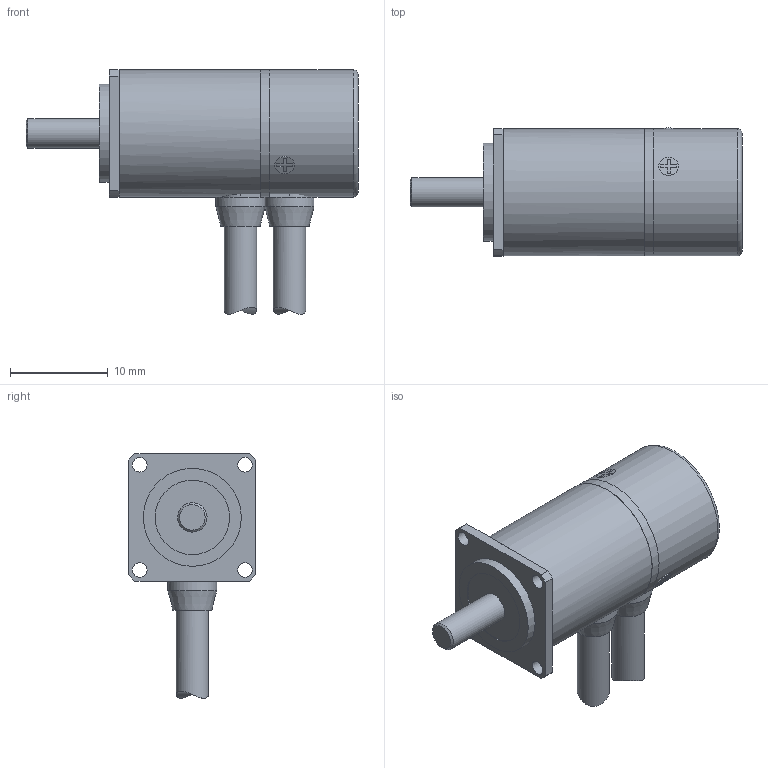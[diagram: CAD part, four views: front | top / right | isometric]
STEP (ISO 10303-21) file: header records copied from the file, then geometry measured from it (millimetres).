
FILE_DESCRIPTION(('STEP AP214'),'1');
FILE_NAME('LC18H02A MDS-1306-11B.stp','2022-01-28T00:01:05',(' '),(' '),'Spatial InterOp 3D',' ',' ');
FILE_SCHEMA(('AUTOMOTIVE_DESIGN { 1 0 10303 214 1 1 1 1 }'));
Length unit declared in the file: millimetre
Products named in the file (11): LC18H02A MDS-1306-11B; 018211 サラコネジ M1.4X2.5; 041980 3芯屈曲ケーブル(3.3)0.3M-TE; - ケーブルモータAssy図面用; 4.2ゴムブッシュ - コピー; 041981 14芯屈曲ケーブル(3.3)0.3M-HRS; - ケーブルモータAssy用モデル; ケーブルプッシュφ4.2 - コピー
Assembly tree (12 placements, depth 3):
  LC18H02A MDS-1306-11B
    LC18H02A MDS-1306-11B
    LC18H02A MDS-1306-11B
    LC18H02A MDS-1306-11B
    018211 サラコネジ M1.4X2.5  x3
    041980 3芯屈曲ケーブル(3.3)0.3M-TE
      - ケーブルモータAssy図面用
      4.2ゴムブッシュ - コピー
    041981 14芯屈曲ケーブル(3.3)0.3M-HRS
      - ケーブルモータAssy用モデル
      ケーブルプッシュφ4.2 - コピー
Bounding box: 33.9 x 13.07 x 24.97 mm (x, y, z)
Volume: 3866.3 mm3; surface area: 2750.9 mm2
Topology: 10 solids, 10 shells, 133 faces, 305 edges, 198 vertices
Faces by surface type: plane 92, cylinder 34, cone 6, torus 1
Full cylindrical faces by diameter (mm): 1.4 x3, 1.5 x4, 2 x3, 3 x1, 3.2 x1, 3.3 x3, 5 x2, 7.6 x1, 10 x1, 13 x3
Entity records: 4122 total; most frequent: CARTESIAN_POINT 588, DIRECTION 470, ORIENTED_EDGE 372, EDGE_CURVE 186, AXIS2_PLACEMENT_3D 176, EDGE_LOOP 136, VERTEX_POINT 132, LINE 118
